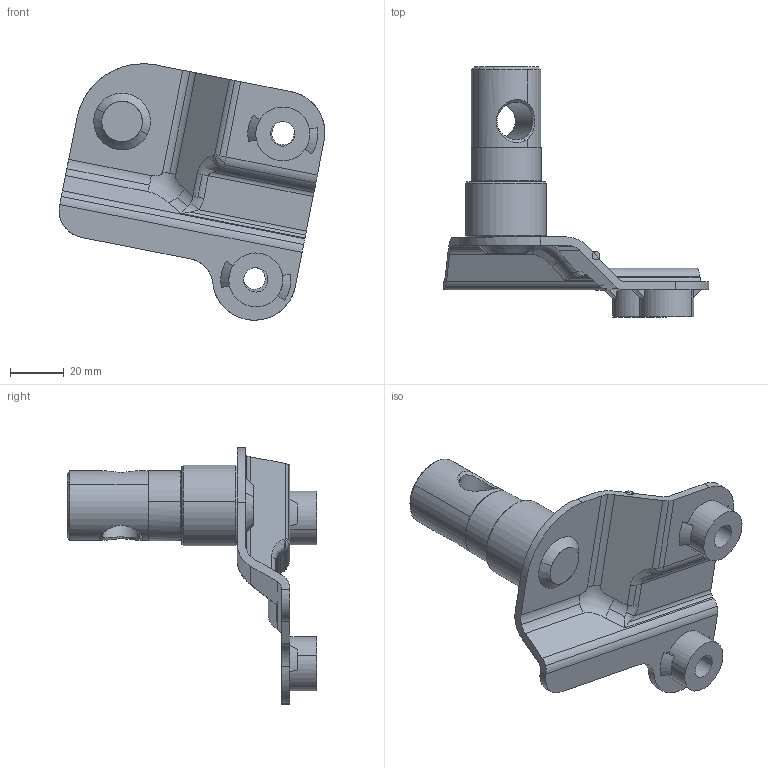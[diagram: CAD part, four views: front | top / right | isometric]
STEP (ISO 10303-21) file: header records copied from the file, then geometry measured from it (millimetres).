
FILE_DESCRIPTION(('CATIA V5 STEP Exchange'),'2;1');
FILE_NAME('C:\Users\Administrator\Desktop\SHT0016861-203231212.stp','2023-12-12T03:23:24+00:00',('none'),('none'),'CATIA Version 5 Release 20 GA (IN-10)','CATIA V5 STEP AP214','none');
FILE_SCHEMA(('AUTOMOTIVE_DESIGN { 1 0 10303 214 1 1 1 1 }'));
Length unit declared in the file: millimetre
Products named in the file (7): 产品1; A668100000004_AllCATPart; SHT0011333; SHT0011362; SHT0011363; SHT0011364; SHT0011333-H
Assembly tree (7 placements, depth 3):
  产品1
    A668100000004_AllCATPart
    SHT0011333
      SHT0011362
      SHT0011363  x2
      SHT0011364
      SHT0011333-H
Bounding box: 98.49 x 92.5 x 95.02 mm (x, y, z)
Volume: 60357.9 mm3; surface area: 26767.2 mm2
Topology: 10 solids, 10 shells, 439 faces, 1222 edges, 803 vertices
Faces by surface type: plane 335, cylinder 70, cone 19, bspline 12, sphere 3
Entity records: 18170 total; most frequent: CARTESIAN_POINT 7108, ORIENTED_EDGE 2410, DIRECTION 1958, EDGE_CURVE 1205, VECTOR 1018, LINE 1018, VERTEX_POINT 793, AXIS2_PLACEMENT_3D 513
